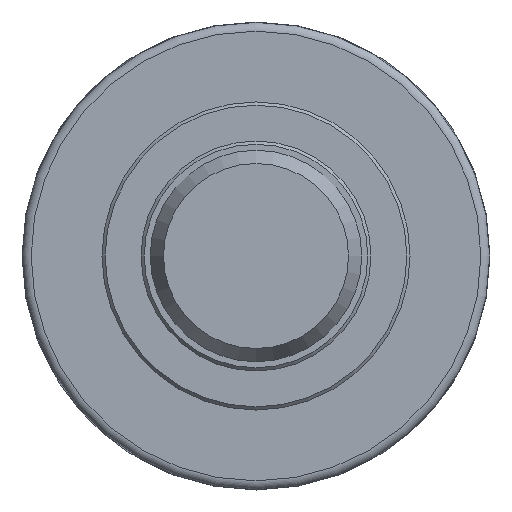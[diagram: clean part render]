
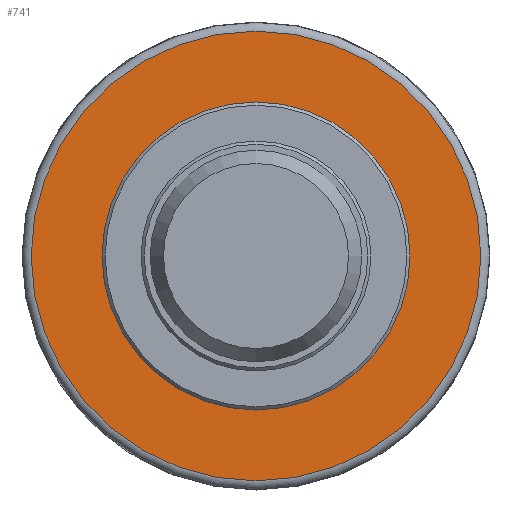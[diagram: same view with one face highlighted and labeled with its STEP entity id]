
A CAD part, left-side view. The second image highlights one B-rep face of the part: STEP entity #741.
In plain terms, the highlighted planar face has unit normal (-1, 0, 0).
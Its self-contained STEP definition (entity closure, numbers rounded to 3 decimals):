
#33=FACE_BOUND('',#141,.T.);
#55=PLANE('',#834);
#92=FACE_OUTER_BOUND('',#140,.T.);
#140=EDGE_LOOP('',(#631));
#141=EDGE_LOOP('',(#632));
#280=CIRCLE('',#833,48.9);
#281=CIRCLE('',#835,32.5);
#358=VERTEX_POINT('',#1542);
#359=VERTEX_POINT('',#1546);
#452=EDGE_CURVE('',#358,#358,#280,.T.);
#453=EDGE_CURVE('',#359,#359,#281,.T.);
#631=ORIENTED_EDGE('',*,*,#452,.F.);
#632=ORIENTED_EDGE('',*,*,#453,.T.);
#741=ADVANCED_FACE('',(#92,#33),#55,.T.);
#833=AXIS2_PLACEMENT_3D('',#1544,#1018,#1019);
#834=AXIS2_PLACEMENT_3D('',#1545,#1020,#1021);
#835=AXIS2_PLACEMENT_3D('',#1547,#1022,#1023);
#1018=DIRECTION('center_axis',(1.,0.,0.));
#1019=DIRECTION('ref_axis',(0.,-1.,0.));
#1020=DIRECTION('center_axis',(-1.,0.,0.));
#1021=DIRECTION('ref_axis',(0.,0.,1.));
#1022=DIRECTION('center_axis',(1.,0.,0.));
#1023=DIRECTION('ref_axis',(0.,1.,0.));
#1542=CARTESIAN_POINT('',(-20.5,0.,48.9));
#1544=CARTESIAN_POINT('Origin',(-20.5,0.,0.));
#1545=CARTESIAN_POINT('Origin',(-20.5,41.7,0.));
#1546=CARTESIAN_POINT('',(-20.5,-32.5,0.));
#1547=CARTESIAN_POINT('Origin',(-20.5,0.,0.));
